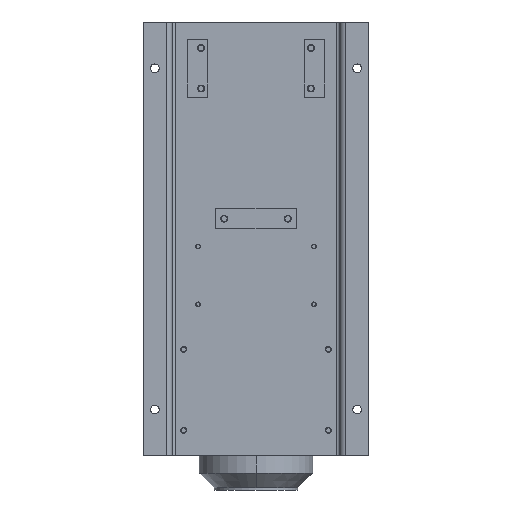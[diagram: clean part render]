
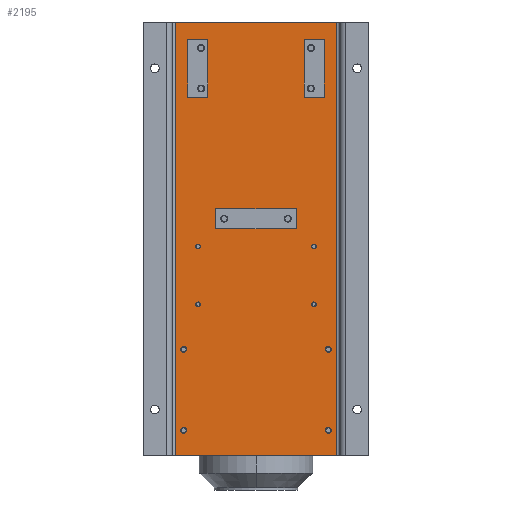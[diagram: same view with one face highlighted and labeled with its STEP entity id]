
A CAD part, front view. The second image highlights one B-rep face of the part: STEP entity #2195.
In plain terms, the highlighted planar face has unit normal (0, -1, 0).
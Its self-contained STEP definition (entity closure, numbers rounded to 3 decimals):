
#56=DIRECTION('',(1.,0.,0.));
#57=VECTOR('',#56,280.);
#58=CARTESIAN_POINT('',(-140.,45.,0.));
#59=LINE('',#58,#57);
#511=DIRECTION('',(0.,0.,1.));
#512=VECTOR('',#511,750.);
#513=CARTESIAN_POINT('',(140.,45.,0.));
#514=LINE('',#513,#512);
#518=DIRECTION('',(0.,0.,1.));
#519=VECTOR('',#518,750.);
#520=CARTESIAN_POINT('',(-140.,45.,0.));
#521=LINE('',#520,#519);
#525=DIRECTION('',(0.,0.,1.));
#526=VECTOR('',#525,100.);
#527=CARTESIAN_POINT('',(-83.,45.,30.));
#528=LINE('',#527,#526);
#532=DIRECTION('',(-1.,0.,0.));
#533=VECTOR('',#532,35.);
#534=CARTESIAN_POINT('',(-83.,45.,130.));
#535=LINE('',#534,#533);
#539=DIRECTION('',(0.,0.,-1.));
#540=VECTOR('',#539,100.);
#541=CARTESIAN_POINT('',(-118.,45.,130.));
#542=LINE('',#541,#540);
#546=DIRECTION('',(1.,0.,0.));
#547=VECTOR('',#546,35.);
#548=CARTESIAN_POINT('',(-118.,45.,30.));
#549=LINE('',#548,#547);
#553=DIRECTION('',(1.,0.,0.));
#554=VECTOR('',#553,35.);
#555=CARTESIAN_POINT('',(83.,45.,30.));
#556=LINE('',#555,#554);
#560=DIRECTION('',(0.,0.,1.));
#561=VECTOR('',#560,100.);
#562=CARTESIAN_POINT('',(118.,45.,30.));
#563=LINE('',#562,#561);
#567=DIRECTION('',(-1.,0.,0.));
#568=VECTOR('',#567,35.);
#569=CARTESIAN_POINT('',(118.,45.,130.));
#570=LINE('',#569,#568);
#574=DIRECTION('',(0.,0.,-1.));
#575=VECTOR('',#574,100.);
#576=CARTESIAN_POINT('',(83.,45.,130.));
#577=LINE('',#576,#575);
#581=DIRECTION('',(0.,0.,1.));
#582=VECTOR('',#581,35.);
#583=CARTESIAN_POINT('',(70.,45.,322.5));
#584=LINE('',#583,#582);
#588=DIRECTION('',(-1.,0.,0.));
#589=VECTOR('',#588,140.);
#590=CARTESIAN_POINT('',(70.,45.,357.5));
#591=LINE('',#590,#589);
#595=DIRECTION('',(0.,0.,-1.));
#596=VECTOR('',#595,35.);
#597=CARTESIAN_POINT('',(-70.,45.,357.5));
#598=LINE('',#597,#596);
#602=DIRECTION('',(1.,0.,0.));
#603=VECTOR('',#602,140.);
#604=CARTESIAN_POINT('',(-70.,45.,322.5));
#605=LINE('',#604,#603);
#609=CARTESIAN_POINT('',(100.,45.,388.));
#610=DIRECTION('',(0.,1.,0.));
#611=DIRECTION('',(0.,0.,1.));
#612=AXIS2_PLACEMENT_3D('',#609,#610,#611);
#617=CARTESIAN_POINT('',(100.,45.,388.));
#618=DIRECTION('',(0.,1.,0.));
#619=DIRECTION('',(0.,0.,-1.));
#620=AXIS2_PLACEMENT_3D('',#617,#618,#619);
#625=CARTESIAN_POINT('',(100.,45.,488.));
#626=DIRECTION('',(0.,1.,0.));
#627=DIRECTION('',(0.,0.,1.));
#628=AXIS2_PLACEMENT_3D('',#625,#626,#627);
#633=CARTESIAN_POINT('',(100.,45.,488.));
#634=DIRECTION('',(0.,1.,0.));
#635=DIRECTION('',(0.,0.,-1.));
#636=AXIS2_PLACEMENT_3D('',#633,#634,#635);
#641=CARTESIAN_POINT('',(-100.,45.,388.));
#642=DIRECTION('',(0.,1.,0.));
#643=DIRECTION('',(0.,0.,1.));
#644=AXIS2_PLACEMENT_3D('',#641,#642,#643);
#649=CARTESIAN_POINT('',(-100.,45.,388.));
#650=DIRECTION('',(0.,1.,0.));
#651=DIRECTION('',(0.,0.,-1.));
#652=AXIS2_PLACEMENT_3D('',#649,#650,#651);
#657=CARTESIAN_POINT('',(-100.,45.,488.));
#658=DIRECTION('',(0.,1.,0.));
#659=DIRECTION('',(0.,0.,1.));
#660=AXIS2_PLACEMENT_3D('',#657,#658,#659);
#665=CARTESIAN_POINT('',(-100.,45.,488.));
#666=DIRECTION('',(0.,1.,0.));
#667=DIRECTION('',(0.,0.,-1.));
#668=AXIS2_PLACEMENT_3D('',#665,#666,#667);
#673=CARTESIAN_POINT('',(125.,45.,566.));
#674=DIRECTION('',(0.,1.,0.));
#675=DIRECTION('',(0.,0.,1.));
#676=AXIS2_PLACEMENT_3D('',#673,#674,#675);
#681=CARTESIAN_POINT('',(125.,45.,566.));
#682=DIRECTION('',(0.,1.,0.));
#683=DIRECTION('',(0.,0.,-1.));
#684=AXIS2_PLACEMENT_3D('',#681,#682,#683);
#689=CARTESIAN_POINT('',(-125.,45.,566.));
#690=DIRECTION('',(0.,1.,0.));
#691=DIRECTION('',(0.,0.,1.));
#692=AXIS2_PLACEMENT_3D('',#689,#690,#691);
#697=CARTESIAN_POINT('',(-125.,45.,566.));
#698=DIRECTION('',(0.,1.,0.));
#699=DIRECTION('',(0.,0.,-1.));
#700=AXIS2_PLACEMENT_3D('',#697,#698,#699);
#705=CARTESIAN_POINT('',(125.,45.,706.));
#706=DIRECTION('',(0.,1.,0.));
#707=DIRECTION('',(0.,0.,1.));
#708=AXIS2_PLACEMENT_3D('',#705,#706,#707);
#713=CARTESIAN_POINT('',(125.,45.,706.));
#714=DIRECTION('',(0.,1.,0.));
#715=DIRECTION('',(0.,0.,-1.));
#716=AXIS2_PLACEMENT_3D('',#713,#714,#715);
#721=CARTESIAN_POINT('',(-125.,45.,706.));
#722=DIRECTION('',(0.,1.,0.));
#723=DIRECTION('',(0.,0.,1.));
#724=AXIS2_PLACEMENT_3D('',#721,#722,#723);
#729=CARTESIAN_POINT('',(-125.,45.,706.));
#730=DIRECTION('',(0.,1.,0.));
#731=DIRECTION('',(0.,0.,-1.));
#732=AXIS2_PLACEMENT_3D('',#729,#730,#731);
#955=DIRECTION('',(1.,0.,0.));
#956=VECTOR('',#955,280.);
#957=CARTESIAN_POINT('',(-140.,45.,750.));
#958=LINE('',#957,#956);
#1557=CARTESIAN_POINT('',(140.,45.,0.));
#1558=CARTESIAN_POINT('',(140.,45.,750.));
#1559=VERTEX_POINT('',#1557);
#1560=VERTEX_POINT('',#1558);
#1561=CARTESIAN_POINT('',(-140.,45.,0.));
#1562=CARTESIAN_POINT('',(-140.,45.,750.));
#1563=VERTEX_POINT('',#1561);
#1564=VERTEX_POINT('',#1562);
#1617=CARTESIAN_POINT('',(-83.,45.,30.));
#1618=CARTESIAN_POINT('',(-83.,45.,130.));
#1619=VERTEX_POINT('',#1617);
#1620=VERTEX_POINT('',#1618);
#1621=CARTESIAN_POINT('',(-118.,45.,130.));
#1622=VERTEX_POINT('',#1621);
#1623=CARTESIAN_POINT('',(-118.,45.,30.));
#1624=VERTEX_POINT('',#1623);
#1625=CARTESIAN_POINT('',(83.,45.,30.));
#1626=CARTESIAN_POINT('',(118.,45.,30.));
#1627=VERTEX_POINT('',#1625);
#1628=VERTEX_POINT('',#1626);
#1629=CARTESIAN_POINT('',(118.,45.,130.));
#1630=VERTEX_POINT('',#1629);
#1631=CARTESIAN_POINT('',(83.,45.,130.));
#1632=VERTEX_POINT('',#1631);
#1729=CARTESIAN_POINT('',(125.,45.,571.));
#1730=VERTEX_POINT('',#1729);
#1731=CARTESIAN_POINT('',(125.,45.,561.));
#1732=VERTEX_POINT('',#1731);
#1733=CARTESIAN_POINT('',(125.,45.,711.));
#1734=VERTEX_POINT('',#1733);
#1735=CARTESIAN_POINT('',(125.,45.,701.));
#1736=VERTEX_POINT('',#1735);
#1737=CARTESIAN_POINT('',(-125.,45.,571.));
#1738=VERTEX_POINT('',#1737);
#1739=CARTESIAN_POINT('',(-125.,45.,561.));
#1740=VERTEX_POINT('',#1739);
#1741=CARTESIAN_POINT('',(-125.,45.,711.));
#1742=VERTEX_POINT('',#1741);
#1743=CARTESIAN_POINT('',(-125.,45.,701.));
#1744=VERTEX_POINT('',#1743);
#1745=CARTESIAN_POINT('',(100.,45.,392.));
#1746=CARTESIAN_POINT('',(100.,45.,384.));
#1747=VERTEX_POINT('',#1745);
#1748=VERTEX_POINT('',#1746);
#1749=CARTESIAN_POINT('',(100.,45.,492.));
#1750=CARTESIAN_POINT('',(100.,45.,484.));
#1751=VERTEX_POINT('',#1749);
#1752=VERTEX_POINT('',#1750);
#1753=CARTESIAN_POINT('',(-100.,45.,392.));
#1754=CARTESIAN_POINT('',(-100.,45.,384.));
#1755=VERTEX_POINT('',#1753);
#1756=VERTEX_POINT('',#1754);
#1757=CARTESIAN_POINT('',(-100.,45.,492.));
#1758=CARTESIAN_POINT('',(-100.,45.,484.));
#1759=VERTEX_POINT('',#1757);
#1760=VERTEX_POINT('',#1758);
#1785=CARTESIAN_POINT('',(70.,45.,322.5));
#1786=CARTESIAN_POINT('',(70.,45.,357.5));
#1787=VERTEX_POINT('',#1785);
#1788=VERTEX_POINT('',#1786);
#1789=CARTESIAN_POINT('',(-70.,45.,357.5));
#1790=VERTEX_POINT('',#1789);
#1791=CARTESIAN_POINT('',(-70.,45.,322.5));
#1792=VERTEX_POINT('',#1791);
#2104=CARTESIAN_POINT('',(-145.,45.,0.));
#2105=DIRECTION('',(0.,-1.,0.));
#2106=DIRECTION('',(1.,0.,0.));
#2107=AXIS2_PLACEMENT_3D('',#2104,#2105,#2106);
#2108=PLANE('',#2107);
#2109=ORIENTED_EDGE('',*,*,#2097,.F.);
#2110=ORIENTED_EDGE('',*,*,#1816,.F.);
#2112=ORIENTED_EDGE('',*,*,#2111,.T.);
#2114=ORIENTED_EDGE('',*,*,#2113,.T.);
#2115=EDGE_LOOP('',(#2109,#2110,#2112,#2114));
#2116=FACE_OUTER_BOUND('',#2115,.F.);
#2118=ORIENTED_EDGE('',*,*,#2117,.T.);
#2120=ORIENTED_EDGE('',*,*,#2119,.T.);
#2122=ORIENTED_EDGE('',*,*,#2121,.T.);
#2124=ORIENTED_EDGE('',*,*,#2123,.T.);
#2125=EDGE_LOOP('',(#2118,#2120,#2122,#2124));
#2126=FACE_BOUND('',#2125,.F.);
#2128=ORIENTED_EDGE('',*,*,#2127,.T.);
#2130=ORIENTED_EDGE('',*,*,#2129,.T.);
#2132=ORIENTED_EDGE('',*,*,#2131,.T.);
#2134=ORIENTED_EDGE('',*,*,#2133,.T.);
#2135=EDGE_LOOP('',(#2128,#2130,#2132,#2134));
#2136=FACE_BOUND('',#2135,.F.);
#2138=ORIENTED_EDGE('',*,*,#2137,.T.);
#2140=ORIENTED_EDGE('',*,*,#2139,.T.);
#2142=ORIENTED_EDGE('',*,*,#2141,.T.);
#2144=ORIENTED_EDGE('',*,*,#2143,.T.);
#2145=EDGE_LOOP('',(#2138,#2140,#2142,#2144));
#2146=FACE_BOUND('',#2145,.F.);
#2148=ORIENTED_EDGE('',*,*,#2147,.F.);
#2150=ORIENTED_EDGE('',*,*,#2149,.F.);
#2151=EDGE_LOOP('',(#2148,#2150));
#2152=FACE_BOUND('',#2151,.F.);
#2154=ORIENTED_EDGE('',*,*,#2153,.F.);
#2156=ORIENTED_EDGE('',*,*,#2155,.F.);
#2157=EDGE_LOOP('',(#2154,#2156));
#2158=FACE_BOUND('',#2157,.F.);
#2160=ORIENTED_EDGE('',*,*,#2159,.F.);
#2162=ORIENTED_EDGE('',*,*,#2161,.F.);
#2163=EDGE_LOOP('',(#2160,#2162));
#2164=FACE_BOUND('',#2163,.F.);
#2166=ORIENTED_EDGE('',*,*,#2165,.F.);
#2168=ORIENTED_EDGE('',*,*,#2167,.F.);
#2169=EDGE_LOOP('',(#2166,#2168));
#2170=FACE_BOUND('',#2169,.F.);
#2172=ORIENTED_EDGE('',*,*,#2171,.F.);
#2174=ORIENTED_EDGE('',*,*,#2173,.F.);
#2175=EDGE_LOOP('',(#2172,#2174));
#2176=FACE_BOUND('',#2175,.F.);
#2178=ORIENTED_EDGE('',*,*,#2177,.F.);
#2180=ORIENTED_EDGE('',*,*,#2179,.F.);
#2181=EDGE_LOOP('',(#2178,#2180));
#2182=FACE_BOUND('',#2181,.F.);
#2184=ORIENTED_EDGE('',*,*,#2183,.F.);
#2186=ORIENTED_EDGE('',*,*,#2185,.F.);
#2187=EDGE_LOOP('',(#2184,#2186));
#2188=FACE_BOUND('',#2187,.F.);
#2190=ORIENTED_EDGE('',*,*,#2189,.F.);
#2192=ORIENTED_EDGE('',*,*,#2191,.F.);
#2193=EDGE_LOOP('',(#2190,#2192));
#2194=FACE_BOUND('',#2193,.F.);
#613=CIRCLE('',#612,4.);
#621=CIRCLE('',#620,4.);
#629=CIRCLE('',#628,4.);
#637=CIRCLE('',#636,4.);
#645=CIRCLE('',#644,4.);
#653=CIRCLE('',#652,4.);
#661=CIRCLE('',#660,4.);
#669=CIRCLE('',#668,4.);
#677=CIRCLE('',#676,5.);
#685=CIRCLE('',#684,5.);
#693=CIRCLE('',#692,5.);
#701=CIRCLE('',#700,5.);
#709=CIRCLE('',#708,5.);
#717=CIRCLE('',#716,5.);
#725=CIRCLE('',#724,5.);
#733=CIRCLE('',#732,5.);
#1816=EDGE_CURVE('',#1563,#1559,#59,.T.);
#2097=EDGE_CURVE('',#1559,#1560,#514,.T.);
#2111=EDGE_CURVE('',#1563,#1564,#521,.T.);
#2113=EDGE_CURVE('',#1564,#1560,#958,.T.);
#2117=EDGE_CURVE('',#1619,#1620,#528,.T.);
#2119=EDGE_CURVE('',#1620,#1622,#535,.T.);
#2121=EDGE_CURVE('',#1622,#1624,#542,.T.);
#2123=EDGE_CURVE('',#1624,#1619,#549,.T.);
#2127=EDGE_CURVE('',#1627,#1628,#556,.T.);
#2129=EDGE_CURVE('',#1628,#1630,#563,.T.);
#2131=EDGE_CURVE('',#1630,#1632,#570,.T.);
#2133=EDGE_CURVE('',#1632,#1627,#577,.T.);
#2137=EDGE_CURVE('',#1787,#1788,#584,.T.);
#2139=EDGE_CURVE('',#1788,#1790,#591,.T.);
#2141=EDGE_CURVE('',#1790,#1792,#598,.T.);
#2143=EDGE_CURVE('',#1792,#1787,#605,.T.);
#2147=EDGE_CURVE('',#1747,#1748,#613,.T.);
#2149=EDGE_CURVE('',#1748,#1747,#621,.T.);
#2153=EDGE_CURVE('',#1751,#1752,#629,.T.);
#2155=EDGE_CURVE('',#1752,#1751,#637,.T.);
#2159=EDGE_CURVE('',#1755,#1756,#645,.T.);
#2161=EDGE_CURVE('',#1756,#1755,#653,.T.);
#2165=EDGE_CURVE('',#1759,#1760,#661,.T.);
#2167=EDGE_CURVE('',#1760,#1759,#669,.T.);
#2171=EDGE_CURVE('',#1730,#1732,#677,.T.);
#2173=EDGE_CURVE('',#1732,#1730,#685,.T.);
#2177=EDGE_CURVE('',#1738,#1740,#693,.T.);
#2179=EDGE_CURVE('',#1740,#1738,#701,.T.);
#2183=EDGE_CURVE('',#1734,#1736,#709,.T.);
#2185=EDGE_CURVE('',#1736,#1734,#717,.T.);
#2189=EDGE_CURVE('',#1742,#1744,#725,.T.);
#2191=EDGE_CURVE('',#1744,#1742,#733,.T.);
#2195=ADVANCED_FACE('',(#2116,#2126,#2136,#2146,#2152,#2158,#2164,#2170,#2176,
#2182,#2188,#2194),#2108,.T.);
